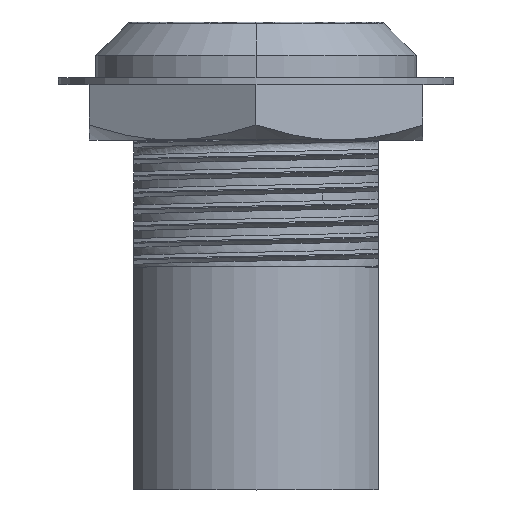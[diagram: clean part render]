
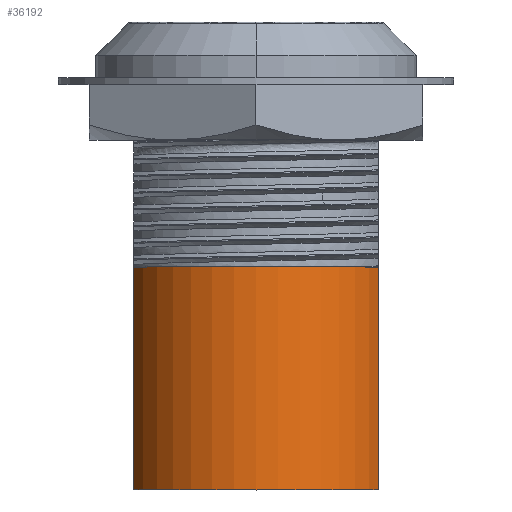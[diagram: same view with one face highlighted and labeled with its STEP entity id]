
A CAD part, top view. The second image highlights one B-rep face of the part: STEP entity #36192.
In plain terms, the highlighted cylindrical face has radius 11.8 mm (diameter 23.6 mm), a partial arc.
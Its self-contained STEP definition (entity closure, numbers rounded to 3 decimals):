
#1600 = DIRECTION ( 'NONE',  ( 0., -1., 0. ) ) ;
#2098 = CARTESIAN_POINT ( 'NONE',  ( 11., 20., 4.271 ) ) ;
#6128 = VERTEX_POINT ( 'NONE', #23317 ) ;
#7281 = DIRECTION ( 'NONE',  ( 0., 1., 0. ) ) ;
#8516 = AXIS2_PLACEMENT_3D ( 'NONE', #25725, #28708, #37580 ) ;
#11060 = DIRECTION ( 'NONE',  ( 0., -1., 0. ) ) ;
#13133 = CIRCLE ( 'NONE', #27734, 11.8 ) ;
#13476 = LINE ( 'NONE', #24544, #29352 ) ;
#14077 = CARTESIAN_POINT ( 'NONE',  ( -11., 0., 4.271 ) ) ;
#14611 = CIRCLE ( 'NONE', #27601, 11.8 ) ;
#15048 = LINE ( 'NONE', #14077, #37934 ) ;
#16498 = ORIENTED_EDGE ( 'NONE', *, *, #33788, .T. ) ;
#16613 = EDGE_CURVE ( 'NONE', #20499, #25304, #13476, .T. ) ;
#18420 = DIRECTION ( 'NONE',  ( 0., 1., 0. ) ) ;
#19473 = CARTESIAN_POINT ( 'NONE',  ( 0., 20., 0. ) ) ;
#20499 = VERTEX_POINT ( 'NONE', #34974 ) ;
#21602 = ORIENTED_EDGE ( 'NONE', *, *, #16613, .T. ) ;
#22469 = DIRECTION ( 'NONE',  ( 0., 0., -1. ) ) ;
#23287 = VERTEX_POINT ( 'NONE', #34247 ) ;
#23317 = CARTESIAN_POINT ( 'NONE',  ( -11., 0., 4.271 ) ) ;
#24544 = CARTESIAN_POINT ( 'NONE',  ( 11., 0., 4.271 ) ) ;
#24861 = ORIENTED_EDGE ( 'NONE', *, *, #28588, .T. ) ;
#25213 = CARTESIAN_POINT ( 'NONE',  ( 0., 0., 0. ) ) ;
#25304 = VERTEX_POINT ( 'NONE', #2098 ) ;
#25725 = CARTESIAN_POINT ( 'NONE',  ( 0., 0., 0. ) ) ;
#27601 = AXIS2_PLACEMENT_3D ( 'NONE', #25213, #7281, #28195 ) ;
#27734 = AXIS2_PLACEMENT_3D ( 'NONE', #19473, #1600, #22469 ) ;
#28195 = DIRECTION ( 'NONE',  ( 0., 0., -1. ) ) ;
#28352 = EDGE_CURVE ( 'NONE', #6128, #20499, #14611, .T. ) ;
#28588 = EDGE_CURVE ( 'NONE', #23287, #6128, #15048, .T. ) ;
#28708 = DIRECTION ( 'NONE',  ( 0., -1., 0. ) ) ;
#29352 = VECTOR ( 'NONE', #18420, 1000. ) ;
#33633 = EDGE_LOOP ( 'NONE', ( #16498, #24861, #35947, #21602 ) ) ;
#33788 = EDGE_CURVE ( 'NONE', #25304, #23287, #13133, .T. ) ;
#34247 = CARTESIAN_POINT ( 'NONE',  ( -11., 20., 4.271 ) ) ;
#34947 = CYLINDRICAL_SURFACE ( 'NONE', #8516, 11.8 ) ;
#34974 = CARTESIAN_POINT ( 'NONE',  ( 11., 0., 4.271 ) ) ;
#35886 = FACE_OUTER_BOUND ( 'NONE', #33633, .T. ) ;
#35947 = ORIENTED_EDGE ( 'NONE', *, *, #28352, .T. ) ;
#36192 = ADVANCED_FACE ( 'NONE', ( #35886 ), #34947, .T. ) ;
#37580 = DIRECTION ( 'NONE',  ( 0., 0., -1. ) ) ;
#37934 = VECTOR ( 'NONE', #11060, 1000. ) ;
